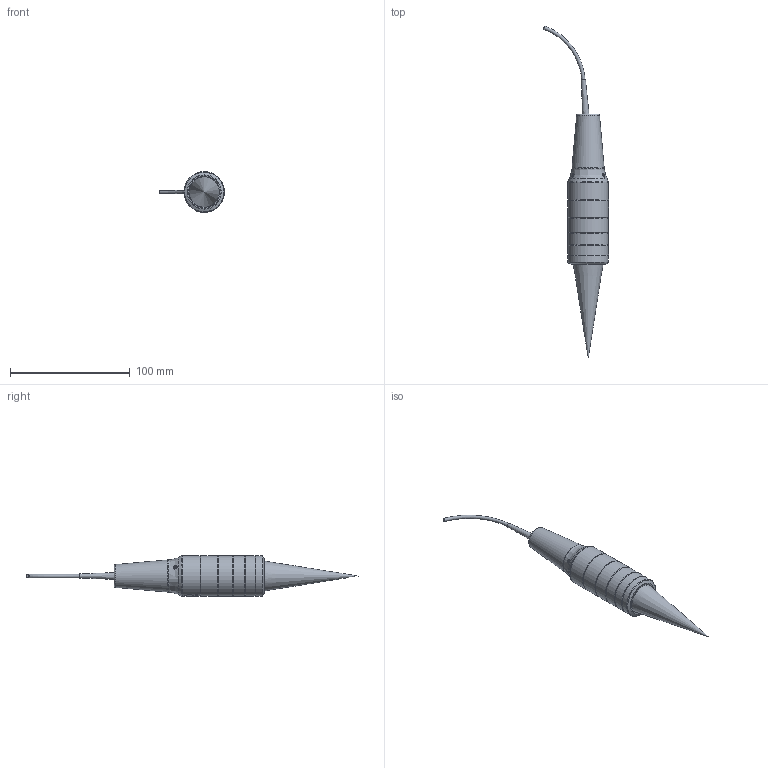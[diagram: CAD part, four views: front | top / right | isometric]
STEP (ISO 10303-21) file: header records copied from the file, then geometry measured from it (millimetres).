
FILE_DESCRIPTION (( 'STEP AP214' ), '1' );
FILE_NAME ('IFS2404-18.STEP', '2026-01-21T06:57:30', ( '' ), ( '' ), 'SwSTEP 2.0', 'SolidWorks 2022', '' );
FILE_SCHEMA (( 'AUTOMOTIVE_DESIGN' ));
Length unit declared in the file: millimetre
Products named in the file (1): IFS2404-18
Bounding box: 54.37 x 277.58 x 34 mm (x, y, z)
Volume: 93246.4 mm3; surface area: 20314 mm2
Topology: 2 solids, 2 shells, 352 faces, 946 edges, 628 vertices
Faces by surface type: bspline 174, plane 120, cylinder 33, torus 14, cone 11
Full cylindrical faces by diameter (mm): 2.5 x2, 3.2 x2, 14 x1, 23.2 x1, 24.1 x1, 33.92 x1, 34 x5
Entity records: 22990 total; most frequent: CARTESIAN_POINT 12010, ORIENTED_EDGE 1772, EDGE_CURVE 886, DIRECTION 844, VERTEX_POINT 607, B_SPLINE_CURVE_WITH_KNOTS 546, EDGE_LOOP 421, FACE_OUTER_BOUND 380
